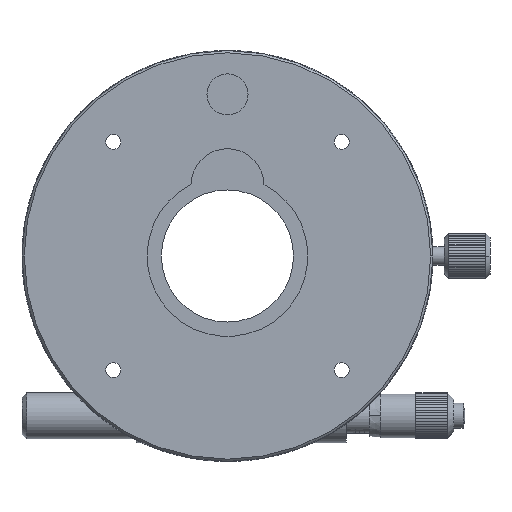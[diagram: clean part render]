
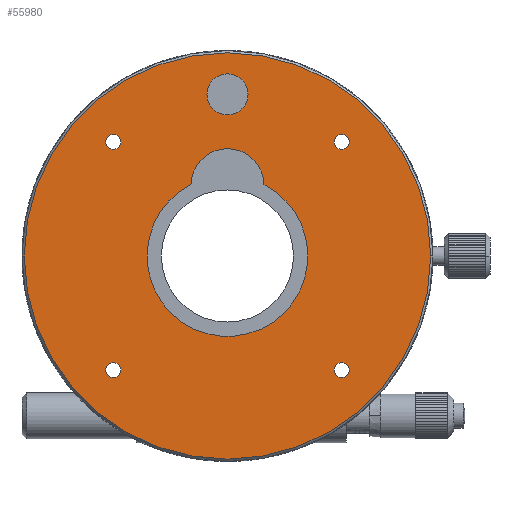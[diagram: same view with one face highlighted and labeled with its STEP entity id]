
A CAD part, front view. The second image highlights one B-rep face of the part: STEP entity #55980.
In plain terms, the highlighted planar face has unit normal (0, -1, 0).
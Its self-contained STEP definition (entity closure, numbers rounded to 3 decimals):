
#4389 = ORIENTED_EDGE ( 'NONE', *, *, #33388, .F. ) ;
#4393 = ORIENTED_EDGE ( 'NONE', *, *, #33414, .T. ) ;
#4395 = ORIENTED_EDGE ( 'NONE', *, *, #12983, .F. ) ;
#4396 = ORIENTED_EDGE ( 'NONE', *, *, #12984, .T. ) ;
#4398 = ORIENTED_EDGE ( 'NONE', *, *, #33334, .T. ) ;
#4399 = ORIENTED_EDGE ( 'NONE', *, *, #33407, .T. ) ;
#4400 = ORIENTED_EDGE ( 'NONE', *, *, #33423, .T. ) ;
#4401 = ORIENTED_EDGE ( 'NONE', *, *, #33354, .T. ) ;
#4402 = ORIENTED_EDGE ( 'NONE', *, *, #12985, .T. ) ;
#4403 = ORIENTED_EDGE ( 'NONE', *, *, #12986, .T. ) ;
#4404 = ORIENTED_EDGE ( 'NONE', *, *, #33363, .T. ) ;
#4405 = ORIENTED_EDGE ( 'NONE', *, *, #12987, .T. ) ;
#4406 = ORIENTED_EDGE ( 'NONE', *, *, #33373, .T. ) ;
#4407 = ORIENTED_EDGE ( 'NONE', *, *, #12988, .T. ) ;
#4408 = ORIENTED_EDGE ( 'NONE', *, *, #33382, .T. ) ;
#12983 = EDGE_CURVE ( 'NONE', #31225, #31224, #25638, .T. ) ;
#12984 = EDGE_CURVE ( 'NONE', #31201, #31200, #25640, .T. ) ;
#12985 = EDGE_CURVE ( 'NONE', #31210, #31211, #25642, .T. ) ;
#12986 = EDGE_CURVE ( 'NONE', #31214, #31215, #25643, .T. ) ;
#12987 = EDGE_CURVE ( 'NONE', #31218, #31219, #25645, .T. ) ;
#12988 = EDGE_CURVE ( 'NONE', #31222, #31223, #25646, .T. ) ;
#21870 = AXIS2_PLACEMENT_3D ( 'NONE', #22881, #22882, #22883 ) ;
#21871 = AXIS2_PLACEMENT_3D ( 'NONE', #22884, #22885, #22886 ) ;
#21872 = AXIS2_PLACEMENT_3D ( 'NONE', #22887, #22888, #22889 ) ;
#21873 = AXIS2_PLACEMENT_3D ( 'NONE', #22890, #22891, #22892 ) ;
#21874 = AXIS2_PLACEMENT_3D ( 'NONE', #22893, #22894, #22895 ) ;
#21875 = AXIS2_PLACEMENT_3D ( 'NONE', #22896, #22897, #22898 ) ;
#22881 = CARTESIAN_POINT ( 'NONE',  ( -6.25, 0., 0. ) ) ;
#22882 = DIRECTION ( 'NONE',  ( 0., 1., 0. ) ) ;
#22883 = DIRECTION ( 'NONE',  ( -1., 0., 0. ) ) ;
#22884 = CARTESIAN_POINT ( 'NONE',  ( -6.25, 0., 35.4 ) ) ;
#22885 = DIRECTION ( 'NONE',  ( 0., 1., 0. ) ) ;
#22886 = DIRECTION ( 'NONE',  ( 0., 0., 1. ) ) ;
#22887 = CARTESIAN_POINT ( 'NONE',  ( -31.25, 0., 25. ) ) ;
#22888 = DIRECTION ( 'NONE',  ( 0., 1., 0. ) ) ;
#22889 = DIRECTION ( 'NONE',  ( 0., 0., -1. ) ) ;
#22890 = CARTESIAN_POINT ( 'NONE',  ( 18.75, 0., 25. ) ) ;
#22891 = DIRECTION ( 'NONE',  ( 0., 1., 0. ) ) ;
#22892 = DIRECTION ( 'NONE',  ( 0., 0., -1. ) ) ;
#22893 = CARTESIAN_POINT ( 'NONE',  ( 18.75, 0., -25. ) ) ;
#22894 = DIRECTION ( 'NONE',  ( 0., 1., 0. ) ) ;
#22895 = DIRECTION ( 'NONE',  ( 0., 0., -1. ) ) ;
#22896 = CARTESIAN_POINT ( 'NONE',  ( -31.25, 0., -25. ) ) ;
#22897 = DIRECTION ( 'NONE',  ( 0., 1., 0. ) ) ;
#22898 = DIRECTION ( 'NONE',  ( 0., 0., -1. ) ) ;
#24791 = AXIS2_PLACEMENT_3D ( 'NONE', #27852, #27860, #27862 ) ;
#24793 = AXIS2_PLACEMENT_3D ( 'NONE', #27912, #27914, #27916 ) ;
#24797 = AXIS2_PLACEMENT_3D ( 'NONE', #27936, #27938, #27940 ) ;
#24801 = AXIS2_PLACEMENT_3D ( 'NONE', #27960, #27962, #27964 ) ;
#24805 = AXIS2_PLACEMENT_3D ( 'NONE', #27984, #27986, #27988 ) ;
#24813 = AXIS2_PLACEMENT_3D ( 'NONE', #28092, #28094, #28096 ) ;
#24815 = AXIS2_PLACEMENT_3D ( 'NONE', #27990, #28004, #28006 ) ;
#24823 = AXIS2_PLACEMENT_3D ( 'NONE', #28038, #28052, #28054 ) ;
#24826 = AXIS2_PLACEMENT_3D ( 'NONE', #28062, #28070, #28072 ) ;
#25638 = CIRCLE ( 'NONE', #21870, 44.5 ) ;
#25640 = CIRCLE ( 'NONE', #21871, 4.5 ) ;
#25642 = CIRCLE ( 'NONE', #21872, 1.65 ) ;
#25643 = CIRCLE ( 'NONE', #21873, 1.65 ) ;
#25645 = CIRCLE ( 'NONE', #21874, 1.65 ) ;
#25646 = CIRCLE ( 'NONE', #21875, 1.65 ) ;
#26319 = CIRCLE ( 'NONE', #24791, 4.5 ) ;
#26326 = CIRCLE ( 'NONE', #24793, 1.65 ) ;
#26329 = CIRCLE ( 'NONE', #24797, 1.65 ) ;
#26333 = CIRCLE ( 'NONE', #24801, 1.65 ) ;
#26337 = CIRCLE ( 'NONE', #24805, 1.65 ) ;
#26338 = CIRCLE ( 'NONE', #24815, 44.5 ) ;
#26343 = CIRCLE ( 'NONE', #24823, 8. ) ;
#26347 = CIRCLE ( 'NONE', #24826, 8. ) ;
#26351 = CIRCLE ( 'NONE', #24813, 17.6 ) ;
#27852 = CARTESIAN_POINT ( 'NONE',  ( -6.25, 0., 35.4 ) ) ;
#27860 = DIRECTION ( 'NONE',  ( 0., 1., 0. ) ) ;
#27862 = DIRECTION ( 'NONE',  ( 0., 0., 1. ) ) ;
#27912 = CARTESIAN_POINT ( 'NONE',  ( -31.25, 0., 25. ) ) ;
#27914 = DIRECTION ( 'NONE',  ( 0., 1., 0. ) ) ;
#27916 = DIRECTION ( 'NONE',  ( 0., 0., -1. ) ) ;
#27936 = CARTESIAN_POINT ( 'NONE',  ( 18.75, 0., 25. ) ) ;
#27938 = DIRECTION ( 'NONE',  ( 0., 1., 0. ) ) ;
#27940 = DIRECTION ( 'NONE',  ( 0., 0., -1. ) ) ;
#27960 = CARTESIAN_POINT ( 'NONE',  ( 18.75, 0., -25. ) ) ;
#27962 = DIRECTION ( 'NONE',  ( 0., 1., 0. ) ) ;
#27964 = DIRECTION ( 'NONE',  ( 0., 0., -1. ) ) ;
#27984 = CARTESIAN_POINT ( 'NONE',  ( -31.25, 0., -25. ) ) ;
#27986 = DIRECTION ( 'NONE',  ( 0., 1., 0. ) ) ;
#27988 = DIRECTION ( 'NONE',  ( 0., 0., -1. ) ) ;
#27990 = CARTESIAN_POINT ( 'NONE',  ( -6.25, 0., 0. ) ) ;
#28004 = DIRECTION ( 'NONE',  ( 0., 1., 0. ) ) ;
#28006 = DIRECTION ( 'NONE',  ( -1., 0., 0. ) ) ;
#28038 = CARTESIAN_POINT ( 'NONE',  ( -6.25, 0., 15.5 ) ) ;
#28052 = DIRECTION ( 'NONE',  ( 0., 1., 0. ) ) ;
#28054 = DIRECTION ( 'NONE',  ( 0., 0., 1. ) ) ;
#28062 = CARTESIAN_POINT ( 'NONE',  ( -6.25, 0., 15.5 ) ) ;
#28070 = DIRECTION ( 'NONE',  ( 0., 1., 0. ) ) ;
#28072 = DIRECTION ( 'NONE',  ( 0., 0., 1. ) ) ;
#28092 = CARTESIAN_POINT ( 'NONE',  ( -6.25, 0., 0. ) ) ;
#28094 = DIRECTION ( 'NONE',  ( 0., 1., 0. ) ) ;
#28096 = DIRECTION ( 'NONE',  ( 0., 0., 1. ) ) ;
#31200 = VERTEX_POINT ( 'NONE', #58362 ) ;
#31201 = VERTEX_POINT ( 'NONE', #58364 ) ;
#31210 = VERTEX_POINT ( 'NONE', #58382 ) ;
#31211 = VERTEX_POINT ( 'NONE', #58384 ) ;
#31214 = VERTEX_POINT ( 'NONE', #58390 ) ;
#31215 = VERTEX_POINT ( 'NONE', #58392 ) ;
#31218 = VERTEX_POINT ( 'NONE', #58398 ) ;
#31219 = VERTEX_POINT ( 'NONE', #58400 ) ;
#31222 = VERTEX_POINT ( 'NONE', #58406 ) ;
#31223 = VERTEX_POINT ( 'NONE', #58408 ) ;
#31224 = VERTEX_POINT ( 'NONE', #58410 ) ;
#31225 = VERTEX_POINT ( 'NONE', #58412 ) ;
#31231 = VERTEX_POINT ( 'NONE', #58424 ) ;
#31232 = VERTEX_POINT ( 'NONE', #58426 ) ;
#31235 = VERTEX_POINT ( 'NONE', #58432 ) ;
#33334 = EDGE_CURVE ( 'NONE', #31200, #31201, #26319, .T. ) ;
#33354 = EDGE_CURVE ( 'NONE', #31211, #31210, #26326, .T. ) ;
#33363 = EDGE_CURVE ( 'NONE', #31215, #31214, #26329, .T. ) ;
#33373 = EDGE_CURVE ( 'NONE', #31219, #31218, #26333, .T. ) ;
#33382 = EDGE_CURVE ( 'NONE', #31223, #31222, #26337, .T. ) ;
#33388 = EDGE_CURVE ( 'NONE', #31224, #31225, #26338, .T. ) ;
#33407 = EDGE_CURVE ( 'NONE', #31231, #31232, #26343, .T. ) ;
#33414 = EDGE_CURVE ( 'NONE', #31235, #31231, #26347, .T. ) ;
#33423 = EDGE_CURVE ( 'NONE', #31232, #31235, #26351, .T. ) ;
#52074 = FACE_BOUND ( 'NONE', #53165, .T. ) ;
#52077 = FACE_OUTER_BOUND ( 'NONE', #53164, .T. ) ;
#52089 = FACE_BOUND ( 'NONE', #53166, .T. ) ;
#52092 = AXIS2_PLACEMENT_3D ( 'NONE', #54721, #54722, #54723 ) ;
#52094 = FACE_BOUND ( 'NONE', #53168, .T. ) ;
#52098 = FACE_BOUND ( 'NONE', #53170, .T. ) ;
#52100 = FACE_BOUND ( 'NONE', #53171, .T. ) ;
#52102 = FACE_BOUND ( 'NONE', #53173, .T. ) ;
#53164 = EDGE_LOOP ( 'NONE', ( #4389, #4395 ) ) ;
#53165 = EDGE_LOOP ( 'NONE', ( #4396, #4398 ) ) ;
#53166 = EDGE_LOOP ( 'NONE', ( #4393, #4399, #4400 ) ) ;
#53168 = EDGE_LOOP ( 'NONE', ( #4401, #4402 ) ) ;
#53170 = EDGE_LOOP ( 'NONE', ( #4404, #4403 ) ) ;
#53171 = EDGE_LOOP ( 'NONE', ( #4406, #4405 ) ) ;
#53173 = EDGE_LOOP ( 'NONE', ( #4408, #4407 ) ) ;
#54720 = PLANE ( 'NONE',  #52092 ) ;
#54721 = CARTESIAN_POINT ( 'NONE',  ( -6.25, 0., 0. ) ) ;
#54722 = DIRECTION ( 'NONE',  ( 0., -1., 0. ) ) ;
#54723 = DIRECTION ( 'NONE',  ( 0., 0., -1. ) ) ;
#55980 = ADVANCED_FACE ( 'NONE', ( #52077, #52074, #52089, #52094, #52098, #52100, #52102 ), #54720, .T. ) ;
#58362 = CARTESIAN_POINT ( 'NONE',  ( -6.25, 0., 30.9 ) ) ;
#58364 = CARTESIAN_POINT ( 'NONE',  ( -6.25, 0., 39.9 ) ) ;
#58382 = CARTESIAN_POINT ( 'NONE',  ( -31.25, 0., 26.65 ) ) ;
#58384 = CARTESIAN_POINT ( 'NONE',  ( -31.25, 0., 23.35 ) ) ;
#58390 = CARTESIAN_POINT ( 'NONE',  ( 18.75, 0., 26.65 ) ) ;
#58392 = CARTESIAN_POINT ( 'NONE',  ( 18.75, 0., 23.35 ) ) ;
#58398 = CARTESIAN_POINT ( 'NONE',  ( 18.75, 0., -23.35 ) ) ;
#58400 = CARTESIAN_POINT ( 'NONE',  ( 18.75, 0., -26.65 ) ) ;
#58406 = CARTESIAN_POINT ( 'NONE',  ( -31.25, 0., -23.35 ) ) ;
#58408 = CARTESIAN_POINT ( 'NONE',  ( -31.25, 0., -26.65 ) ) ;
#58410 = CARTESIAN_POINT ( 'NONE',  ( -50.75, 0., 0. ) ) ;
#58412 = CARTESIAN_POINT ( 'NONE',  ( 38.25, 0., 0. ) ) ;
#58424 = CARTESIAN_POINT ( 'NONE',  ( -6.25, 0., 23.5 ) ) ;
#58426 = CARTESIAN_POINT ( 'NONE',  ( 1.748, 0., 15.678 ) ) ;
#58432 = CARTESIAN_POINT ( 'NONE',  ( -14.248, 0., 15.678 ) ) ;
